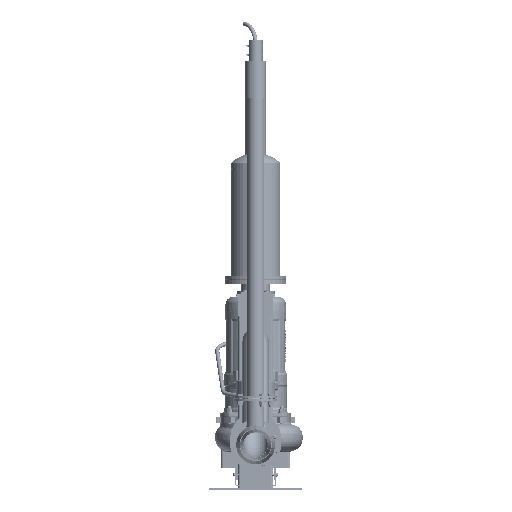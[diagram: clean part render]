
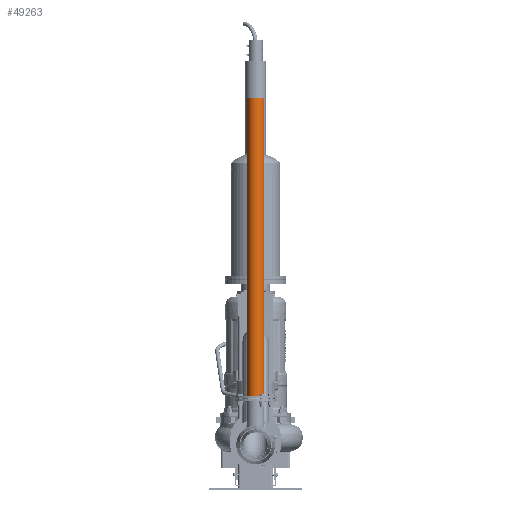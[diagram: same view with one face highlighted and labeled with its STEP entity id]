
A CAD part, left-side view. The second image highlights one B-rep face of the part: STEP entity #49263.
In plain terms, the highlighted cylindrical face has radius 38.1 mm (diameter 76.2 mm), a full revolution.
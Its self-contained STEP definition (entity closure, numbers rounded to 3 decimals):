
#7839=FACE_OUTER_BOUND('',#11109,.T.);
#11109=EDGE_LOOP('',(#36339,#36340,#36341,#36342,#36343));
#14302=LINE('',#77834,#16709);
#16709=VECTOR('',#61820,38.1);
#19305=CIRCLE('',#54097,38.1);
#19306=CIRCLE('',#54098,38.1);
#19310=CIRCLE('',#54104,38.1);
#22718=VERTEX_POINT('',#77819);
#22719=VERTEX_POINT('',#77820);
#22723=VERTEX_POINT('',#77832);
#27745=EDGE_CURVE('',#22718,#22719,#19305,.T.);
#27746=EDGE_CURVE('',#22719,#22718,#19306,.T.);
#27751=EDGE_CURVE('',#22723,#22723,#19310,.T.);
#27752=EDGE_CURVE('',#22723,#22719,#14302,.T.);
#36339=ORIENTED_EDGE('',*,*,#27751,.T.);
#36340=ORIENTED_EDGE('',*,*,#27752,.T.);
#36341=ORIENTED_EDGE('',*,*,#27746,.T.);
#36342=ORIENTED_EDGE('',*,*,#27745,.T.);
#36343=ORIENTED_EDGE('',*,*,#27752,.F.);
#48112=CYLINDRICAL_SURFACE('',#54103,38.1);
#49263=ADVANCED_FACE('',(#7839),#48112,.T.);
#54097=AXIS2_PLACEMENT_3D('',#77821,#61803,#61804);
#54098=AXIS2_PLACEMENT_3D('',#77822,#61805,#61806);
#54103=AXIS2_PLACEMENT_3D('',#77831,#61816,#61817);
#54104=AXIS2_PLACEMENT_3D('',#77833,#61818,#61819);
#61803=DIRECTION('center_axis',(0.,0.,1.));
#61804=DIRECTION('ref_axis',(1.,0.,0.));
#61805=DIRECTION('center_axis',(0.,0.,1.));
#61806=DIRECTION('ref_axis',(1.,0.,0.));
#61816=DIRECTION('center_axis',(0.,0.,1.));
#61817=DIRECTION('ref_axis',(-1.,0.,0.));
#61818=DIRECTION('center_axis',(0.,0.,-1.));
#61819=DIRECTION('ref_axis',(-1.,0.,0.));
#61820=DIRECTION('',(0.,0.,-1.));
#77819=CARTESIAN_POINT('',(-38.1,0.,-800.));
#77820=CARTESIAN_POINT('',(38.1,0.,-800.));
#77821=CARTESIAN_POINT('Origin',(0.,0.,-800.));
#77822=CARTESIAN_POINT('Origin',(0.,0.,-800.));
#77831=CARTESIAN_POINT('Origin',(0.,0.,0.));
#77832=CARTESIAN_POINT('',(38.1,0.,500.));
#77833=CARTESIAN_POINT('Origin',(0.,0.,500.));
#77834=CARTESIAN_POINT('',(38.1,0.,0.));
